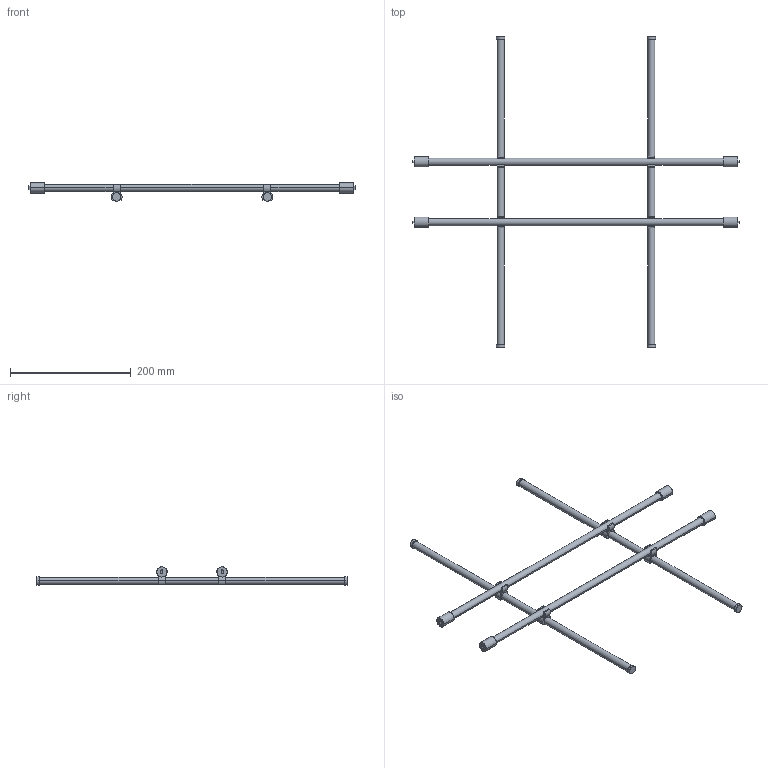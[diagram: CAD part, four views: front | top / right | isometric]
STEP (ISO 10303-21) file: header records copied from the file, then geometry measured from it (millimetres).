
FILE_DESCRIPTION (( 'STEP AP214' ), '1' );
FILE_NAME ('Magic-Classic_NL-550-KAB 600.step', '2010-09-16T12:49:23', ( 'grass' ), ( '' ), 'SwSTEP 2.0', 'SolidWorks 2010', '' );
FILE_SCHEMA (( 'AUTOMOTIVE_DESIGN' ));
Length unit declared in the file: millimetre
Products named in the file (1): Magic-Classic_NL-550-KAB 600
Bounding box: 543 x 515 x 30.45 mm (x, y, z)
Volume: 258511.7 mm3; surface area: 85853.2 mm2
Topology: 1 solids, 1 shells, 140 faces, 384 edges, 256 vertices
Faces by surface type: plane 76, cylinder 64
Entity records: 4546 total; most frequent: DIRECTION 826, CARTESIAN_POINT 781, ORIENTED_EDGE 768, EDGE_CURVE 384, AXIS2_PLACEMENT_3D 301, VERTEX_POINT 256, VECTOR 224, LINE 224
